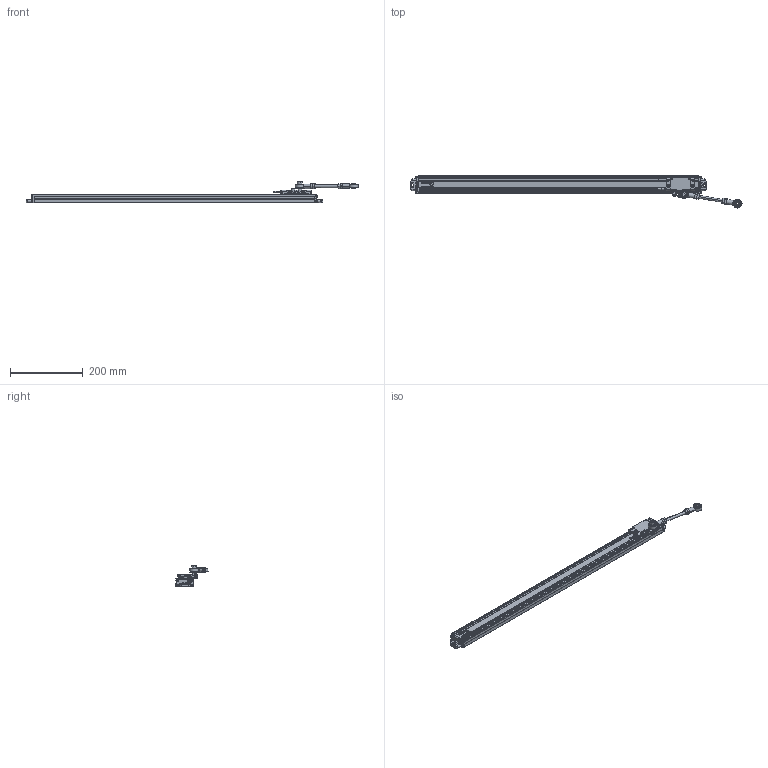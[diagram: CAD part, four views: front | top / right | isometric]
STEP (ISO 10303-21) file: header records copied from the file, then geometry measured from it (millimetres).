
FILE_DESCRIPTION(('Creo Elements/Direct Modeling STEP Export'),'2;1');
FILE_NAME('SERIE_PB-670.stp','2017-01-11T12:53:52',(''),(''),'Creo Elements/Direct Modeling STEP processor for AP214 (Solid Model)','Creo Elements/Direct Modeling 18.1H 24-Oct-2015 (C) Parametric Technology GmbH','');
FILE_SCHEMA(('AUTOMOTIVE_DESIGN { 1 0 10303 214 1 1 1 1 }'));
Length unit declared in the file: millimetre
Products named in the file (14): BLOCK; COUPLING_BAR; IO; READING_HEAD_BODY; SCALE_BLOCK_1; SCALE_BLOCK_2; SCALE_BODY_670
Assembly tree (7 placements, depth 2):
  BLOCK
    BLOCK
  COUPLING_BAR
    COUPLING_BAR
  IO
    IO
  READING_HEAD_BODY
    READING_HEAD_BODY
  SCALE_BLOCK_1
    SCALE_BLOCK_1
Bounding box: 910.72 x 87.83 x 59.41 mm (x, y, z)
Volume: 845795.3 mm3; surface area: 162942.6 mm2
Topology: 9 solids, 13 shells, 1960 faces, 5109 edges, 3177 vertices
Faces by surface type: plane 891, cylinder 671, bspline 198, torus 70, cone 70, sphere 51, extrusion 9
Entity records: 90029 total; most frequent: CARTESIAN_POINT 41051, ORIENTED_EDGE 10084, DIRECTION 8481, EDGE_CURVE 5034, VERTEX_POINT 3177, VECTOR 2925, LINE 2916, AXIS2_PLACEMENT_3D 2778
